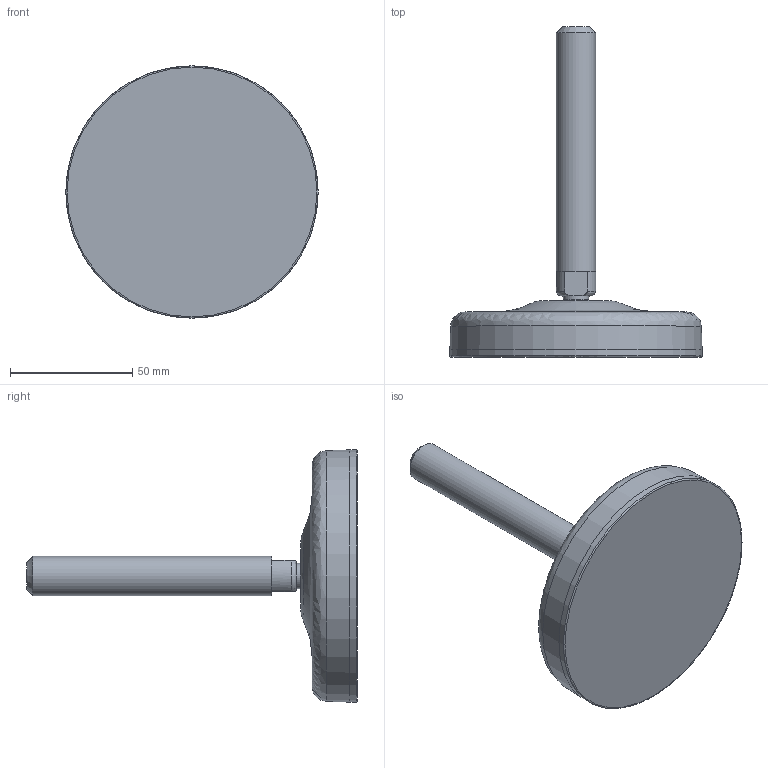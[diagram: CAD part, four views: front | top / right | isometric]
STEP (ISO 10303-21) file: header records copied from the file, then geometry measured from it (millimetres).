
FILE_DESCRIPTION(('STEP AP203'),'2;1');
FILE_NAME('18551.stp','2016-05-19T13:19:24',(''),(''),'2008.1.107','THINKDESIGN','');
FILE_SCHEMA(('CONFIG_CONTROL_DESIGN'));
Length unit declared in the file: millimetre
Bounding box: 103 x 135 x 103 mm (x, y, z)
Volume: 160279.7 mm3; surface area: 46070.4 mm2
Topology: 4 solids, 4 shells, 28 faces, 66 edges, 50 vertices
Faces by surface type: plane 13, bspline 8, cylinder 7
Full cylindrical faces by diameter (mm): 10.292 x1, 16 x1, 27 x1, 95.5 x1, 103 x1
Entity records: 1595 total; most frequent: CARTESIAN_POINT 738, DIRECTION 152, ORIENTED_EDGE 128, AXIS2_PLACEMENT_3D 69, EDGE_CURVE 64, CIRCLE 49, VERTEX_POINT 48, EDGE_LOOP 32
